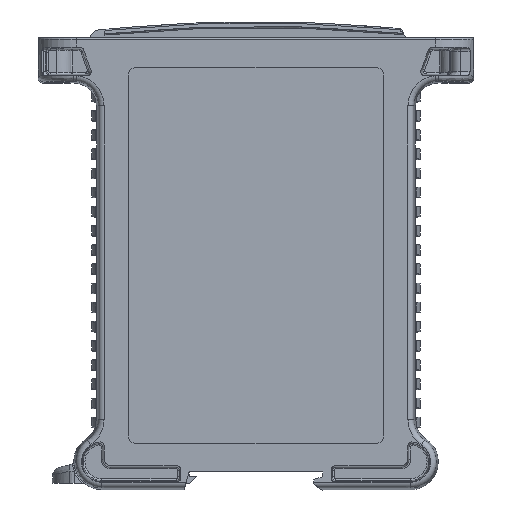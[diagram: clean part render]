
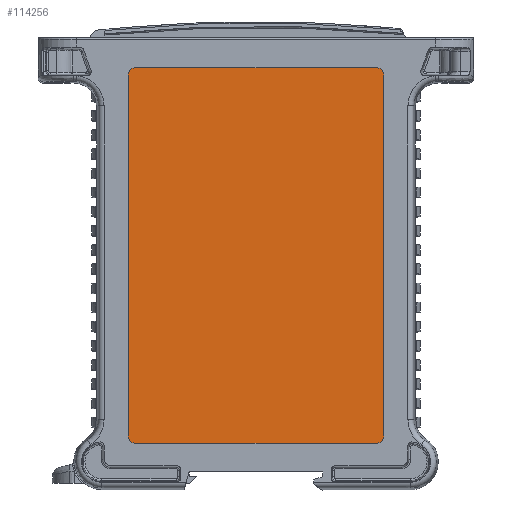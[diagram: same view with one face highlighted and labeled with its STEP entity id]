
A CAD part, front view. The second image highlights one B-rep face of the part: STEP entity #114256.
In plain terms, the highlighted planar face has unit normal (0, -1, 0).
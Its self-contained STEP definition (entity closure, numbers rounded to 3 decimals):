
#37893=CARTESIAN_POINT('',(-32.,-45.45,49.2));
#37894=DIRECTION('',(0.,-1.,0.));
#37895=DIRECTION('',(0.,0.,1.));
#37896=AXIS2_PLACEMENT_3D('',#37893,#37894,#37895);
#37898=DIRECTION('',(-1.,0.,0.));
#37899=VECTOR('',#37898,64.);
#37900=CARTESIAN_POINT('',(32.,-45.45,51.2));
#37901=LINE('',#37900,#37899);
#37902=CARTESIAN_POINT('',(32.,-45.45,49.2));
#37903=DIRECTION('',(0.,-1.,0.));
#37904=DIRECTION('',(1.,0.,0.));
#37905=AXIS2_PLACEMENT_3D('',#37902,#37903,#37904);
#37907=DIRECTION('',(0.,0.,1.));
#37908=VECTOR('',#37907,96.);
#37909=CARTESIAN_POINT('',(34.,-45.45,-46.8));
#37910=LINE('',#37909,#37908);
#37911=CARTESIAN_POINT('',(32.,-45.45,-46.8));
#37912=DIRECTION('',(0.,-1.,0.));
#37913=DIRECTION('',(0.,0.,-1.));
#37914=AXIS2_PLACEMENT_3D('',#37911,#37912,#37913);
#37916=DIRECTION('',(1.,0.,0.));
#37917=VECTOR('',#37916,64.);
#37918=CARTESIAN_POINT('',(-32.,-45.45,-48.8));
#37919=LINE('',#37918,#37917);
#37920=CARTESIAN_POINT('',(-32.,-45.45,-46.8));
#37921=DIRECTION('',(0.,-1.,0.));
#37922=DIRECTION('',(-1.,0.,0.));
#37923=AXIS2_PLACEMENT_3D('',#37920,#37921,#37922);
#37925=DIRECTION('',(0.,0.,-1.));
#37926=VECTOR('',#37925,96.);
#37927=CARTESIAN_POINT('',(-34.,-45.45,49.2));
#37928=LINE('',#37927,#37926);
#45213=CARTESIAN_POINT('',(-32.,-45.45,51.2));
#45214=CARTESIAN_POINT('',(-34.,-45.45,49.2));
#45215=VERTEX_POINT('',#45213);
#45216=VERTEX_POINT('',#45214);
#45221=CARTESIAN_POINT('',(-34.,-45.45,-46.8));
#45222=CARTESIAN_POINT('',(-32.,-45.45,-48.8));
#45223=VERTEX_POINT('',#45221);
#45224=VERTEX_POINT('',#45222);
#45229=CARTESIAN_POINT('',(32.,-45.45,-48.8));
#45230=CARTESIAN_POINT('',(34.,-45.45,-46.8));
#45231=VERTEX_POINT('',#45229);
#45232=VERTEX_POINT('',#45230);
#45237=CARTESIAN_POINT('',(34.,-45.45,49.2));
#45238=CARTESIAN_POINT('',(32.,-45.45,51.2));
#45239=VERTEX_POINT('',#45237);
#45240=VERTEX_POINT('',#45238);
#114235=CARTESIAN_POINT('',(0.,-45.45,0.));
#114236=DIRECTION('',(0.,-1.,0.));
#114237=DIRECTION('',(1.,0.,0.));
#114238=AXIS2_PLACEMENT_3D('',#114235,#114236,#114237);
#114239=PLANE('',#114238);
#114240=ORIENTED_EDGE('',*,*,#114226,.F.);
#114242=ORIENTED_EDGE('',*,*,#114241,.F.);
#114244=ORIENTED_EDGE('',*,*,#114243,.F.);
#114246=ORIENTED_EDGE('',*,*,#114245,.F.);
#114248=ORIENTED_EDGE('',*,*,#114247,.F.);
#114250=ORIENTED_EDGE('',*,*,#114249,.F.);
#114252=ORIENTED_EDGE('',*,*,#114251,.F.);
#114253=ORIENTED_EDGE('',*,*,#114213,.F.);
#114254=EDGE_LOOP('',(#114240,#114242,#114244,#114246,#114248,#114250,#114252,
#114253));
#114255=FACE_OUTER_BOUND('',#114254,.F.);
#37897=CIRCLE('',#37896,2.);
#37906=CIRCLE('',#37905,2.);
#37915=CIRCLE('',#37914,2.);
#37924=CIRCLE('',#37923,2.);
#114213=EDGE_CURVE('',#45216,#45223,#37928,.T.);
#114226=EDGE_CURVE('',#45215,#45216,#37897,.T.);
#114241=EDGE_CURVE('',#45240,#45215,#37901,.T.);
#114243=EDGE_CURVE('',#45239,#45240,#37906,.T.);
#114245=EDGE_CURVE('',#45232,#45239,#37910,.T.);
#114247=EDGE_CURVE('',#45231,#45232,#37915,.T.);
#114249=EDGE_CURVE('',#45224,#45231,#37919,.T.);
#114251=EDGE_CURVE('',#45223,#45224,#37924,.T.);
#114256=ADVANCED_FACE('',(#114255),#114239,.T.);
